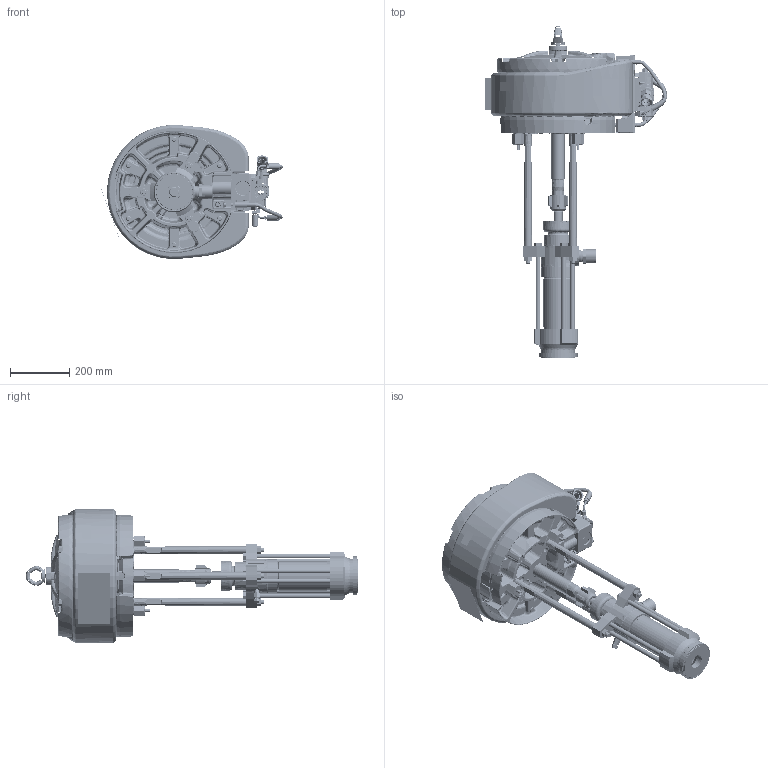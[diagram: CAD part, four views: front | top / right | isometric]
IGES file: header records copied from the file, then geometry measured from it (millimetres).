
Start section:  PTC IGES file: 24y211-en-f.igs
Global section: file name: 24y211-en-f.igs; native system: Creo Parametric by PTC Inc.; preprocessor: 2019030; author: qusrh3; organization: Unknown; date: 20200528.135250; units: inch
Bounding box: 615.5 x 1124.67 x 454.59 mm (x, y, z)
Surface area: 3767636 mm2 (no closed solid volume)
Topology: 0 solids, 0 shells, 4501 faces, 24902 edges, 24900 vertices
Faces by surface type: revolution 2331, bspline 2166, extrusion 4
